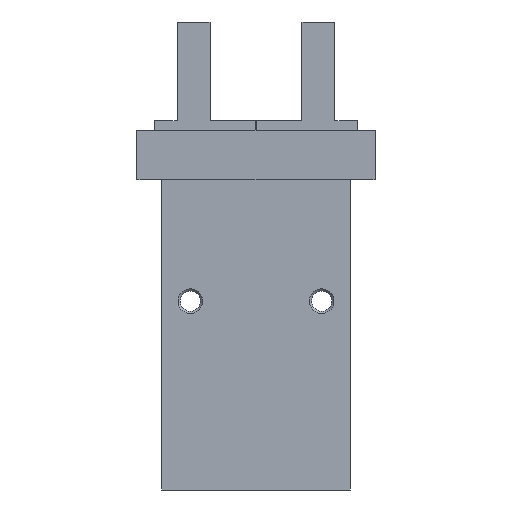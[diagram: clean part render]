
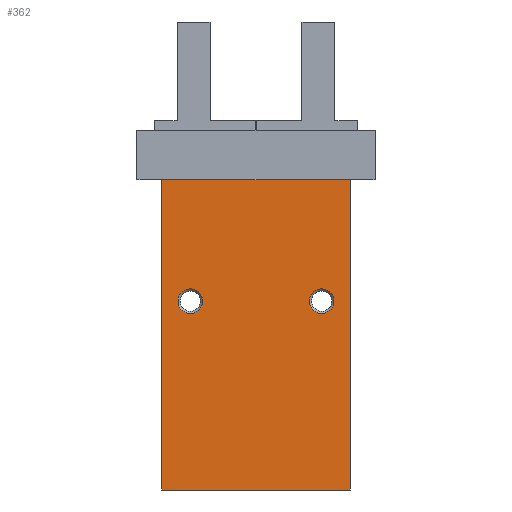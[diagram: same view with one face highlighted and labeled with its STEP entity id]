
A CAD part, front view. The second image highlights one B-rep face of the part: STEP entity #362.
In plain terms, the highlighted planar face has unit normal (0, -1, 0).
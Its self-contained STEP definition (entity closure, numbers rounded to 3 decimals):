
#362 = ADVANCED_FACE( '', ( #759, #760, #761 ), #762, .F. );
#759 = FACE_BOUND( '', #1185, .T. );
#760 = FACE_BOUND( '', #1186, .T. );
#761 = FACE_OUTER_BOUND( '', #1187, .T. );
#762 = PLANE( '', #1188 );
#1185 = EDGE_LOOP( '', ( #2028 ) );
#1186 = EDGE_LOOP( '', ( #2029 ) );
#1187 = EDGE_LOOP( '', ( #2030, #2031, #2032, #2033 ) );
#1188 = AXIS2_PLACEMENT_3D( '', #2034, #2035, #2036 );
#2028 = ORIENTED_EDGE( '', *, *, #2547, .T. );
#2029 = ORIENTED_EDGE( '', *, *, #2487, .T. );
#2030 = ORIENTED_EDGE( '', *, *, #2582, .T. );
#2031 = ORIENTED_EDGE( '', *, *, #2431, .F. );
#2032 = ORIENTED_EDGE( '', *, *, #2632, .F. );
#2033 = ORIENTED_EDGE( '', *, *, #2528, .T. );
#2034 = CARTESIAN_POINT( '', ( -11.5, -8.2, 37.8 ) );
#2035 = DIRECTION( '', ( 0., 1., 0. ) );
#2036 = DIRECTION( '', ( 0., 0., 1. ) );
#2431 = EDGE_CURVE( '', #2895, #2897, #2898, .T. );
#2487 = EDGE_CURVE( '', #2989, #2989, #2990, .T. );
#2528 = EDGE_CURVE( '', #3051, #3049, #3052, .T. );
#2547 = EDGE_CURVE( '', #3078, #3078, #3079, .T. );
#2582 = EDGE_CURVE( '', #3049, #2897, #3124, .T. );
#2632 = EDGE_CURVE( '', #3051, #2895, #3189, .T. );
#2895 = VERTEX_POINT( '', #3535 );
#2897 = VERTEX_POINT( '', #3538 );
#2898 = LINE( '', #3539, #3540 );
#2989 = VERTEX_POINT( '', #3671 );
#2990 = CIRCLE( '', #3672, 1.5 );
#3049 = VERTEX_POINT( '', #3753 );
#3051 = VERTEX_POINT( '', #3756 );
#3052 = LINE( '', #3757, #3758 );
#3078 = VERTEX_POINT( '', #3792 );
#3079 = CIRCLE( '', #3793, 1.5 );
#3124 = LINE( '', #3857, #3858 );
#3189 = LINE( '', #3948, #3949 );
#3535 = CARTESIAN_POINT( '', ( 11.5, -8.2, 37.8 ) );
#3538 = CARTESIAN_POINT( '', ( 11.5, -8.2, 0. ) );
#3539 = CARTESIAN_POINT( '', ( 11.5, -8.2, 37.8 ) );
#3540 = VECTOR( '', #4157, 1000. );
#3671 = CARTESIAN_POINT( '', ( 6.5, -8.2, 23. ) );
#3672 = AXIS2_PLACEMENT_3D( '', #4210, #4211, #4212 );
#3753 = CARTESIAN_POINT( '', ( -11.5, -8.2, 0. ) );
#3756 = CARTESIAN_POINT( '', ( -11.5, -8.2, 37.8 ) );
#3757 = CARTESIAN_POINT( '', ( -11.5, -8.2, 37.8 ) );
#3758 = VECTOR( '', #4254, 1000. );
#3792 = CARTESIAN_POINT( '', ( -9.5, -8.2, 23. ) );
#3793 = AXIS2_PLACEMENT_3D( '', #4275, #4276, #4277 );
#3857 = CARTESIAN_POINT( '', ( -11.5, -8.2, 0. ) );
#3858 = VECTOR( '', #4303, 1000. );
#3948 = CARTESIAN_POINT( '', ( -11.5, -8.2, 37.8 ) );
#3949 = VECTOR( '', #4350, 1000. );
#4157 = DIRECTION( '', ( 0., 0., -1. ) );
#4210 = CARTESIAN_POINT( '', ( 8., -8.2, 23. ) );
#4211 = DIRECTION( '', ( 0., 1., 0. ) );
#4212 = DIRECTION( '', ( -1., 0., 0. ) );
#4254 = DIRECTION( '', ( 0., 0., -1. ) );
#4275 = CARTESIAN_POINT( '', ( -8., -8.2, 23. ) );
#4276 = DIRECTION( '', ( 0., 1., 0. ) );
#4277 = DIRECTION( '', ( -1., 0., 0. ) );
#4303 = DIRECTION( '', ( 1., 0., 0. ) );
#4350 = DIRECTION( '', ( 1., 0., 0. ) );
